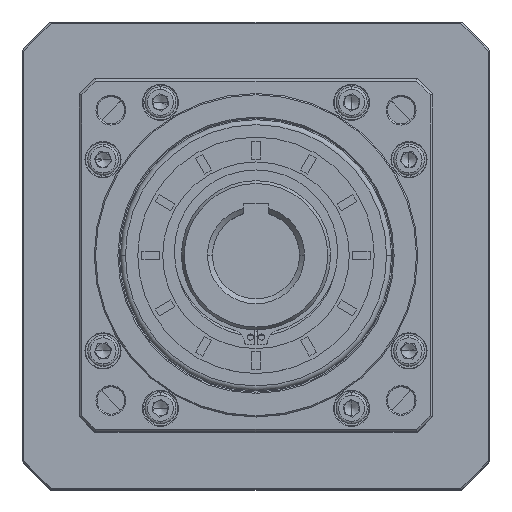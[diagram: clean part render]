
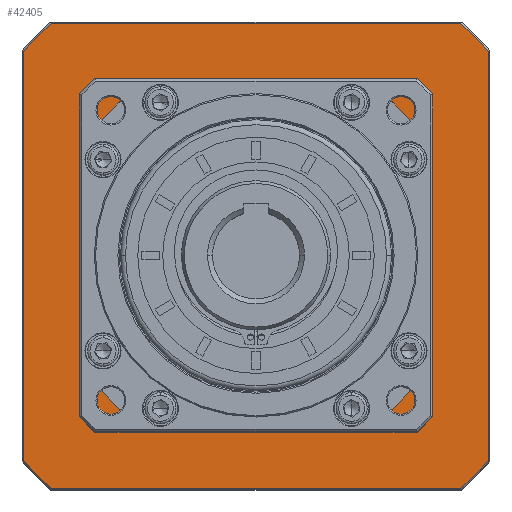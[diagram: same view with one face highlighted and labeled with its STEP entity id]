
A CAD part, top view. The second image highlights one B-rep face of the part: STEP entity #42405.
In plain terms, the highlighted planar face has unit normal (0, 0, 1).
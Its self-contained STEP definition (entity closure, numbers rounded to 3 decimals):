
#734 = DIRECTION ( 'NONE',  ( 0., 0., 1. ) ) ;
#931 = ORIENTED_EDGE ( 'NONE', *, *, #12633, .F. ) ;
#2910 = ORIENTED_EDGE ( 'NONE', *, *, #53076, .F. ) ;
#3253 = VERTEX_POINT ( 'NONE', #81975 ) ;
#3856 = DIRECTION ( 'NONE',  ( -1., 0., 0. ) ) ;
#4077 = AXIS2_PLACEMENT_3D ( 'NONE', #13194, #56353, #3856 ) ;
#4227 = VERTEX_POINT ( 'NONE', #74201 ) ;
#5927 = LINE ( 'NONE', #43878, #53171 ) ;
#6368 = EDGE_CURVE ( 'NONE', #82633, #57644, #5927, .T. ) ;
#6392 = ORIENTED_EDGE ( 'NONE', *, *, #53447, .F. ) ;
#9366 = CARTESIAN_POINT ( 'NONE',  ( 86.048, 121.721, -9.295 ) ) ;
#10025 = CIRCLE ( 'NONE', #14580, 124.5 ) ;
#11074 = CARTESIAN_POINT ( 'NONE',  ( 179.548, 121.721, -9.295 ) ) ;
#11327 = FACE_OUTER_BOUND ( 'NONE', #49048, .T. ) ;
#11342 = VERTEX_POINT ( 'NONE', #40811 ) ;
#11564 = LINE ( 'NONE', #31985, #47652 ) ;
#11706 = DIRECTION ( 'NONE',  ( 0., 0., 1. ) ) ;
#12284 = ORIENTED_EDGE ( 'NONE', *, *, #63230, .F. ) ;
#12633 = EDGE_CURVE ( 'NONE', #38454, #87509, #106956, .T. ) ;
#13194 = CARTESIAN_POINT ( 'NONE',  ( 179.548, 121.721, -9.295 ) ) ;
#13303 = CARTESIAN_POINT ( 'NONE',  ( 109.048, 121.721, -9.295 ) ) ;
#14580 = AXIS2_PLACEMENT_3D ( 'NONE', #11074, #37029, #73219 ) ;
#14593 = ORIENTED_EDGE ( 'NONE', *, *, #6368, .F. ) ;
#15686 = CARTESIAN_POINT ( 'NONE',  ( 179.548, 121.721, -9.295 ) ) ;
#16378 = DIRECTION ( 'NONE',  ( 0., 1., 0. ) ) ;
#16464 = DIRECTION ( 'NONE',  ( 0., 0., 1. ) ) ;
#16607 = CARTESIAN_POINT ( 'NONE',  ( 137.67, 51.221, -9.295 ) ) ;
#17418 = CARTESIAN_POINT ( 'NONE',  ( 179.548, 121.721, -9.295 ) ) ;
#17825 = CIRCLE ( 'NONE', #29804, 82. ) ;
#18087 = LINE ( 'NONE', #26102, #47286 ) ;
#19793 = AXIS2_PLACEMENT_3D ( 'NONE', #15686, #16464, #87887 ) ;
#20340 = VERTEX_POINT ( 'NONE', #22783 ) ;
#21778 = AXIS2_PLACEMENT_3D ( 'NONE', #70839, #25737, #61120 ) ;
#22783 = CARTESIAN_POINT ( 'NONE',  ( 97.341, 28.221, -9.295 ) ) ;
#23451 = CIRCLE ( 'NONE', #19793, 82. ) ;
#25165 = LINE ( 'NONE', #13303, #100326 ) ;
#25737 = DIRECTION ( 'NONE',  ( 0., 0., -1. ) ) ;
#26102 = CARTESIAN_POINT ( 'NONE',  ( 273.048, 121.721, -9.295 ) ) ;
#26361 = DIRECTION ( 'NONE',  ( 0., 0., -1. ) ) ;
#27181 = CARTESIAN_POINT ( 'NONE',  ( 179.548, 121.721, -9.295 ) ) ;
#29261 = CARTESIAN_POINT ( 'NONE',  ( 221.426, 192.221, -9.295 ) ) ;
#29273 = CARTESIAN_POINT ( 'NONE',  ( 250.048, 163.599, -9.295 ) ) ;
#29804 = AXIS2_PLACEMENT_3D ( 'NONE', #37317, #11706, #63787 ) ;
#29941 = AXIS2_PLACEMENT_3D ( 'NONE', #112996, #111483, #103020 ) ;
#31985 = CARTESIAN_POINT ( 'NONE',  ( 179.548, 192.221, -9.295 ) ) ;
#33369 = ORIENTED_EDGE ( 'NONE', *, *, #107206, .F. ) ;
#34132 = DIRECTION ( 'NONE',  ( -1., 0., 0. ) ) ;
#35801 = EDGE_CURVE ( 'NONE', #11342, #41302, #18087, .T. ) ;
#36117 = DIRECTION ( 'NONE',  ( 1., 0., 0. ) ) ;
#36810 = EDGE_CURVE ( 'NONE', #64523, #44396, #11564, .T. ) ;
#37029 = DIRECTION ( 'NONE',  ( 0., 0., -1. ) ) ;
#37317 = CARTESIAN_POINT ( 'NONE',  ( 179.548, 121.721, -9.295 ) ) ;
#38454 = VERTEX_POINT ( 'NONE', #98810 ) ;
#40811 = CARTESIAN_POINT ( 'NONE',  ( 273.048, 203.928, -9.295 ) ) ;
#41302 = VERTEX_POINT ( 'NONE', #55886 ) ;
#42405 = ADVANCED_FACE ( 'NONE', ( #11327, #72411 ), #114410, .F. ) ;
#43586 = AXIS2_PLACEMENT_3D ( 'NONE', #17418, #26361, #72576 ) ;
#43878 = CARTESIAN_POINT ( 'NONE',  ( 250.048, 121.721, -9.295 ) ) ;
#44009 = ORIENTED_EDGE ( 'NONE', *, *, #78248, .F. ) ;
#44396 = VERTEX_POINT ( 'NONE', #114297 ) ;
#45848 = ORIENTED_EDGE ( 'NONE', *, *, #54111, .F. ) ;
#47286 = VECTOR ( 'NONE', #52499, 1000. ) ;
#47573 = EDGE_CURVE ( 'NONE', #87509, #11342, #62709, .T. ) ;
#47652 = VECTOR ( 'NONE', #58800, 1000. ) ;
#47984 = CIRCLE ( 'NONE', #29941, 82. ) ;
#48412 = EDGE_CURVE ( 'NONE', #57644, #64523, #23451, .T. ) ;
#49048 = EDGE_LOOP ( 'NONE', ( #45848, #12284, #77278, #114970, #931, #58383, #6392, #2910 ) ) ;
#49185 = CIRCLE ( 'NONE', #21778, 124.5 ) ;
#52462 = VERTEX_POINT ( 'NONE', #108083 ) ;
#52499 = DIRECTION ( 'NONE',  ( 0., -1., 0. ) ) ;
#53076 = EDGE_CURVE ( 'NONE', #20340, #3253, #83526, .T. ) ;
#53171 = VECTOR ( 'NONE', #96719, 1000. ) ;
#53335 = ORIENTED_EDGE ( 'NONE', *, *, #80512, .F. ) ;
#53447 = EDGE_CURVE ( 'NONE', #3253, #52462, #115138, .T. ) ;
#53960 = DIRECTION ( 'NONE',  ( 0., 0., -1. ) ) ;
#54004 = CARTESIAN_POINT ( 'NONE',  ( 179.548, 51.221, -9.295 ) ) ;
#54111 = EDGE_CURVE ( 'NONE', #4227, #20340, #73382, .T. ) ;
#55886 = CARTESIAN_POINT ( 'NONE',  ( 273.048, 39.514, -9.295 ) ) ;
#56353 = DIRECTION ( 'NONE',  ( 0., 0., -1. ) ) ;
#57644 = VERTEX_POINT ( 'NONE', #29273 ) ;
#57930 = ORIENTED_EDGE ( 'NONE', *, *, #36810, .F. ) ;
#58383 = ORIENTED_EDGE ( 'NONE', *, *, #113239, .F. ) ;
#58800 = DIRECTION ( 'NONE',  ( -1., 0., 0. ) ) ;
#59331 = CIRCLE ( 'NONE', #68237, 82. ) ;
#60322 = EDGE_CURVE ( 'NONE', #86605, #82633, #59331, .T. ) ;
#61120 = DIRECTION ( 'NONE',  ( -1., 0., 0. ) ) ;
#62709 = CIRCLE ( 'NONE', #82276, 124.5 ) ;
#63230 = EDGE_CURVE ( 'NONE', #41302, #4227, #49185, .T. ) ;
#63787 = DIRECTION ( 'NONE',  ( 1., 0., 0. ) ) ;
#64523 = VERTEX_POINT ( 'NONE', #29261 ) ;
#68153 = ORIENTED_EDGE ( 'NONE', *, *, #60322, .F. ) ;
#68237 = AXIS2_PLACEMENT_3D ( 'NONE', #27181, #734, #80789 ) ;
#70839 = CARTESIAN_POINT ( 'NONE',  ( 179.548, 121.721, -9.295 ) ) ;
#71458 = EDGE_LOOP ( 'NONE', ( #88277, #14593, #68153, #33369, #53335, #44009, #106403, #57930 ) ) ;
#72411 = FACE_BOUND ( 'NONE', #71458, .T. ) ;
#72576 = DIRECTION ( 'NONE',  ( -1., 0., 0. ) ) ;
#73219 = DIRECTION ( 'NONE',  ( 0., 1., 0. ) ) ;
#73382 = LINE ( 'NONE', #78433, #109439 ) ;
#74201 = CARTESIAN_POINT ( 'NONE',  ( 261.755, 28.221, -9.295 ) ) ;
#77278 = ORIENTED_EDGE ( 'NONE', *, *, #35801, .F. ) ;
#78248 = EDGE_CURVE ( 'NONE', #83658, #81022, #25165, .T. ) ;
#78433 = CARTESIAN_POINT ( 'NONE',  ( 179.548, 28.221, -9.295 ) ) ;
#79139 = CARTESIAN_POINT ( 'NONE',  ( 109.048, 163.599, -9.295 ) ) ;
#80385 = CARTESIAN_POINT ( 'NONE',  ( 179.548, 121.721, -9.295 ) ) ;
#80512 = EDGE_CURVE ( 'NONE', #81022, #94012, #17825, .T. ) ;
#80789 = DIRECTION ( 'NONE',  ( 1., 0., 0. ) ) ;
#81022 = VERTEX_POINT ( 'NONE', #98202 ) ;
#81534 = DIRECTION ( 'NONE',  ( -1., 0., 0. ) ) ;
#81952 = VECTOR ( 'NONE', #16378, 1000. ) ;
#81975 = CARTESIAN_POINT ( 'NONE',  ( 86.048, 39.514, -9.295 ) ) ;
#82276 = AXIS2_PLACEMENT_3D ( 'NONE', #80385, #53960, #81534 ) ;
#82633 = VERTEX_POINT ( 'NONE', #90443 ) ;
#83526 = CIRCLE ( 'NONE', #4077, 124.5 ) ;
#83658 = VERTEX_POINT ( 'NONE', #79139 ) ;
#86605 = VERTEX_POINT ( 'NONE', #111552 ) ;
#87509 = VERTEX_POINT ( 'NONE', #91992 ) ;
#87887 = DIRECTION ( 'NONE',  ( 1., 0., 0. ) ) ;
#88277 = ORIENTED_EDGE ( 'NONE', *, *, #48412, .F. ) ;
#90443 = CARTESIAN_POINT ( 'NONE',  ( 250.048, 79.844, -9.295 ) ) ;
#91992 = CARTESIAN_POINT ( 'NONE',  ( 261.755, 215.221, -9.295 ) ) ;
#94012 = VERTEX_POINT ( 'NONE', #16607 ) ;
#95945 = EDGE_CURVE ( 'NONE', #44396, #83658, #47984, .T. ) ;
#96164 = CARTESIAN_POINT ( 'NONE',  ( 179.548, 215.221, -9.295 ) ) ;
#96719 = DIRECTION ( 'NONE',  ( 0., 1., 0. ) ) ;
#96904 = DIRECTION ( 'NONE',  ( 1., 0., 0. ) ) ;
#98202 = CARTESIAN_POINT ( 'NONE',  ( 109.048, 79.844, -9.295 ) ) ;
#98810 = CARTESIAN_POINT ( 'NONE',  ( 97.341, 215.221, -9.295 ) ) ;
#100326 = VECTOR ( 'NONE', #109976, 1000. ) ;
#103020 = DIRECTION ( 'NONE',  ( 1., 0., 0. ) ) ;
#104486 = LINE ( 'NONE', #54004, #110034 ) ;
#105513 = VECTOR ( 'NONE', #96904, 1000. ) ;
#106403 = ORIENTED_EDGE ( 'NONE', *, *, #95945, .F. ) ;
#106956 = LINE ( 'NONE', #96164, #105513 ) ;
#107206 = EDGE_CURVE ( 'NONE', #94012, #86605, #104486, .T. ) ;
#108083 = CARTESIAN_POINT ( 'NONE',  ( 86.048, 203.928, -9.295 ) ) ;
#109439 = VECTOR ( 'NONE', #34132, 1000. ) ;
#109976 = DIRECTION ( 'NONE',  ( 0., -1., 0. ) ) ;
#110034 = VECTOR ( 'NONE', #36117, 1000. ) ;
#111483 = DIRECTION ( 'NONE',  ( 0., 0., 1. ) ) ;
#111552 = CARTESIAN_POINT ( 'NONE',  ( 221.426, 51.221, -9.295 ) ) ;
#112996 = CARTESIAN_POINT ( 'NONE',  ( 179.548, 121.721, -9.295 ) ) ;
#113239 = EDGE_CURVE ( 'NONE', #52462, #38454, #10025, .T. ) ;
#114297 = CARTESIAN_POINT ( 'NONE',  ( 137.67, 192.221, -9.295 ) ) ;
#114410 = PLANE ( 'NONE',  #43586 ) ;
#114970 = ORIENTED_EDGE ( 'NONE', *, *, #47573, .F. ) ;
#115138 = LINE ( 'NONE', #9366, #81952 ) ;
